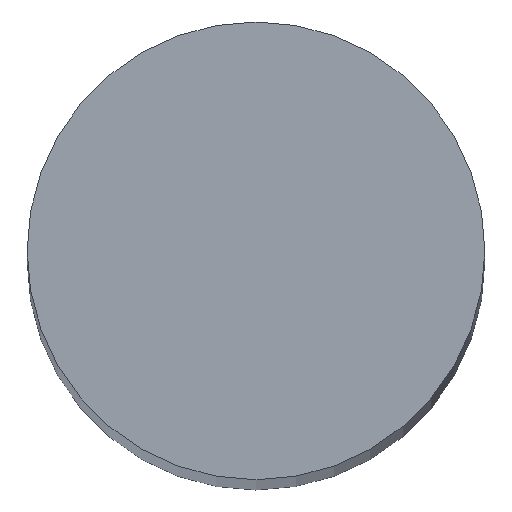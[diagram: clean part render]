
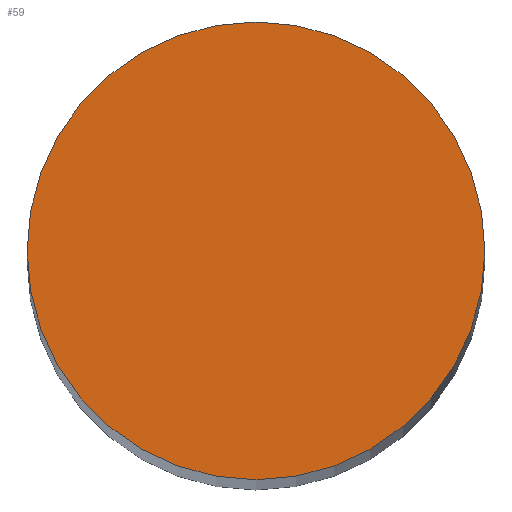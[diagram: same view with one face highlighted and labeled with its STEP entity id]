
A CAD part, top view. The second image highlights one B-rep face of the part: STEP entity #59.
In plain terms, the highlighted planar face has unit normal (0, 0, 1).
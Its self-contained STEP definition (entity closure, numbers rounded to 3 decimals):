
#24 = VERTEX_POINT('',#25);
#25 = CARTESIAN_POINT('',(4.,0.,102.65));
#31 = EDGE_CURVE('',#24,#24,#32,.T.);
#32 = CIRCLE('',#33,4.);
#33 = AXIS2_PLACEMENT_3D('',#34,#35,#36);
#34 = CARTESIAN_POINT('',(0.,0.,102.65));
#35 = DIRECTION('',(0.,0.,1.));
#36 = DIRECTION('',(1.,0.,0.));
#59 = ADVANCED_FACE('',(#60),#63,.T.);
#60 = FACE_BOUND('',#61,.T.);
#61 = EDGE_LOOP('',(#62));
#62 = ORIENTED_EDGE('',*,*,#31,.T.);
#63 = PLANE('',#64);
#64 = AXIS2_PLACEMENT_3D('',#65,#66,#67);
#65 = CARTESIAN_POINT('',(0.,0.,102.65)
  );
#66 = DIRECTION('',(0.,0.,1.));
#67 = DIRECTION('',(1.,0.,0.));
